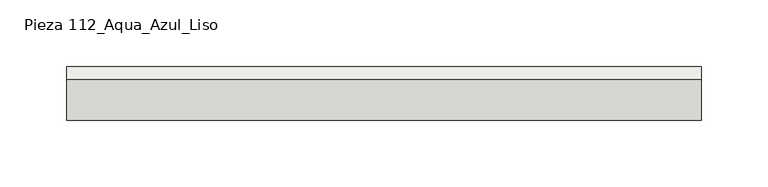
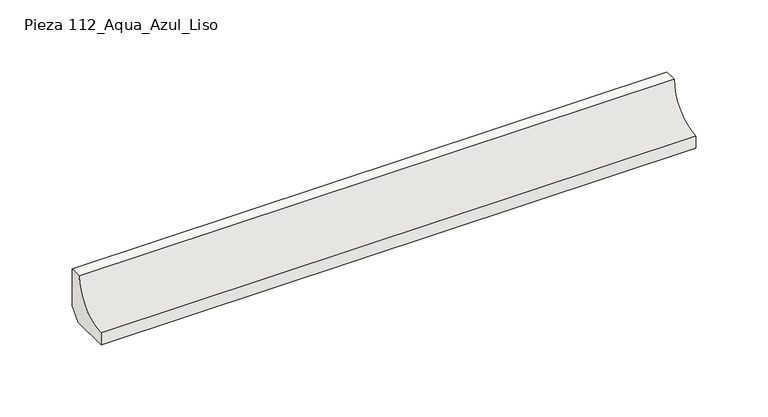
"""IFC4 building model written with IfcOpenShell, lengths in millimetres: slab geometry, ROSA GRES_112 : Pieza 112_Aqua_Azul_Liso."""

from ifc_helpers import new_model, si_unit, point, frame, frame_2d, origin, place, context, project, spatial, polyline, circle_curve, trimmed, segment, composite_curve, outline, extrude, source, transform, mapped, element, save


def pieza_112_aqua_azul_liso_dedf870e(model_context):
    return source(origin(), model_context, "Body", "SweptSolid", [
        extrude(outline(composite_curve([segment(polyline([(0.0, 8.7114978), (-8.7114978, 0.0), (-40.0, 0.0), (-40.0, 9.9734114)]), True, "CONTINUOUS"), segment(trimmed(circle_curve(frame_2d((-39.9955547, 39.9955547)), 30.0221435), [point((-40.0, 9.9734114))], [point((-9.9734114, 40.0))], True, "CARTESIAN"), True, "CONTINUOUS"), segment(polyline([(-9.9734114, 40.0), (0.0, 40.0), (0.0, 8.7114978)]), True, "CONTINUOUS")], self_intersect=False)), frame((0.0, 0.0, 0.0), z_axis=(1.0, 0.0, 0.0), x_axis=(0.0, 1.0, 0.0)), (0.0, 0.0, 1.0), 475.9159823),
    ])


if __name__ == "__main__":
    model = new_model("IFC4")
    model_context = context("Model", 3, world=origin())
    ifc_project = project(units=[si_unit("LENGTHUNIT", "METRE", prefix="MILLI")], contexts=[model_context])
    site = spatial("IfcSite", under=ifc_project)
    building = spatial("IfcBuilding", under=site)
    placement = place(None, origin())
    pieza_112_aqua_azul_liso_shape = pieza_112_aqua_azul_liso_dedf870e(model_context)
    element("IfcSlab", 1, ObjectType="ROSA GRES_112 : Pieza 112_Aqua_Azul_Liso", at=placement, inside=building, context=model_context, shape_type="MappedRepresentation", body=[
        mapped(pieza_112_aqua_azul_liso_shape, transform((0.0, 0.0, 0.0), x_axis=(1.0, 0.0, 0.0), y_axis=(0.0, 1.0, 0.0), z_axis=(0.0, 0.0, 1.0))),
    ])
    save(model, "model.ifc")
